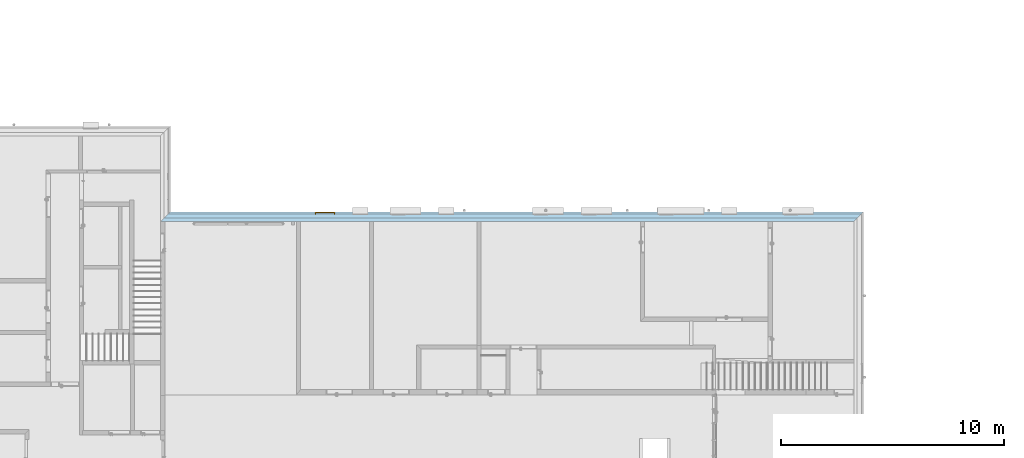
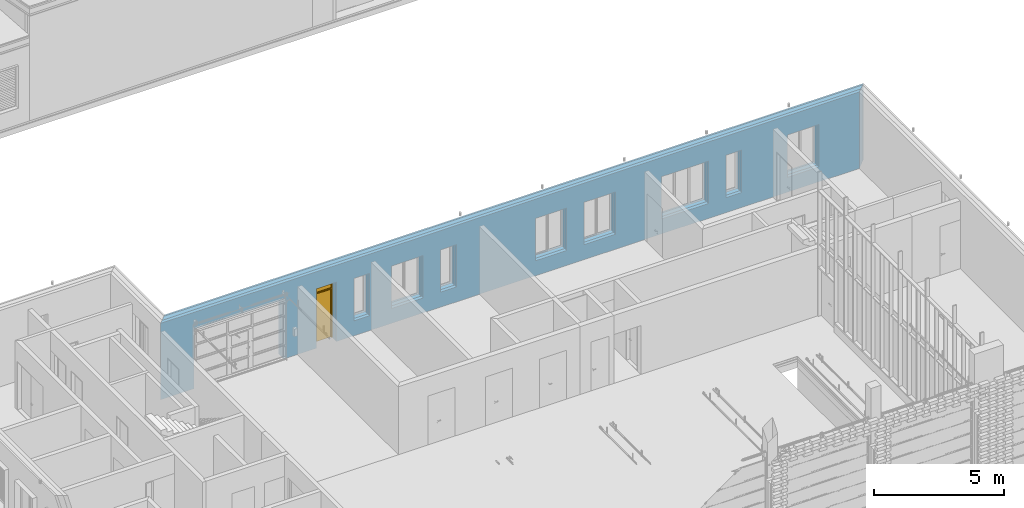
# One storey, part 21 of 62: 1 door, 10 openings, 1 element without a shape of its own, plus 3 elements that do not belong to this part.
"""IFC2X3 building model written with IfcOpenShell, lengths in millimetres."""

from ifc_helpers import new_model, entity, si_unit, converted_unit, derived_unit, money_unit, direction, frame, origin_with_axes, origin_2d_with_axis, place, context, subcontext, project, spatial, polyline, rectangle, outline, extrude, open_shell, faceted_brep, surface_model, source, transform, mapped, material, type_object, element, fill, aggregate, save


model = new_model("IFC2X3")

# Units and contexts
model_context = context("Model", 3, precision=0.01, world=origin_with_axes(), true_north=direction((0.0, 1.0)))
body_context = subcontext(model_context, "Body", "Model", "MODEL_VIEW")
ifc_project = project(units=[si_unit("LENGTHUNIT", "METRE", prefix="MILLI"), si_unit("AREAUNIT", "SQUARE_METRE"), si_unit("VOLUMEUNIT", "CUBIC_METRE"), converted_unit("PLANEANGLEUNIT", "DEGREE", entity("IfcPlaneAngleMeasure", 0.0174532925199), si_unit("PLANEANGLEUNIT", "RADIAN"), dimensions=[0, 0, 0, 0, 0, 0, 0]), si_unit("SOLIDANGLEUNIT", "STERADIAN"), money_unit("EUR"), converted_unit("TIMEUNIT", "Year", entity("IfcTimeMeasure", 31556926.0), si_unit("TIMEUNIT", "SECOND"), dimensions=[0, 0, 1, 0, 0, 0, 0]), si_unit("MASSUNIT", "GRAM", prefix="KILO"), si_unit("THERMODYNAMICTEMPERATUREUNIT", "DEGREE_CELSIUS"), si_unit("LUMINOUSINTENSITYUNIT", "LUMEN"), si_unit("ENERGYUNIT", "JOULE", prefix="MEGA"), derived_unit("THERMALCONDUCTANCEUNIT", [(si_unit("POWERUNIT", "WATT"), 1), (si_unit("LENGTHUNIT", "METRE"), -1), (si_unit("THERMODYNAMICTEMPERATUREUNIT", "KELVIN"), -1)]), derived_unit("SPECIFICHEATCAPACITYUNIT", [(si_unit("ENERGYUNIT", "JOULE"), 1), (si_unit("MASSUNIT", "GRAM", prefix="KILO"), -1), (si_unit("THERMODYNAMICTEMPERATUREUNIT", "KELVIN"), -1)]), derived_unit("MASSDENSITYUNIT", [(si_unit("MASSUNIT", "GRAM", prefix="KILO"), 1), (si_unit("VOLUMEUNIT", "CUBIC_METRE"), -1)])], contexts=[model_context])

# Site, building, storey
site_placement = place(None, origin_with_axes())
site = spatial("IfcSite", under=ifc_project, at=site_placement, Name="KIRDE 14, ELVA", CompositionType="ELEMENT")
building_placement = place(site_placement, origin_with_axes())
building = spatial("IfcBuilding", under=site, at=building_placement, Name="PPA ja Päästeameti ühishoone", CompositionType="ELEMENT")
storey_placement = place(building_placement, origin_with_axes())
storey = spatial("IfcBuildingStorey", under=building, at=storey_placement, Name="Esimene korrus", CompositionType="ELEMENT", Elevation=0.0)

# Door
door_style = type_object("IfcDoorStyle", Name="Door with Transom 24", ConstructionType="NOTDEFINED", OperationType="SINGLE_SWING_LEFT", ParameterTakesPrecedence=False, Sizeable=False)
shared_shape = source(origin_with_axes(), body_context, "Body", "SurfaceModel", [
    faceted_brep([(410.0, -40.0, 2312.0), (410.0, -40.0, 0.0), (410.0, -115.0, 0.0), (410.0, -115.0, 2300.0), (410.0, -115.0, 2340.0), (410.0, 0.0, 2340.0), (410.0, 0.0, 2312.0), (422.0, -40.0, 2312.0), (422.0, -40.0, 0.0), (422.0, 0.0, 0.0), (450.0, 0.0, 0.0), (450.0, -115.0, 0.0), (450.0, -115.0, 2760.0), (410.0, -115.0, 2760.0), (410.0, 0.0, 2760.0), (422.0, 0.0, 2312.0), (450.0, 0.0, 2760.0)], [[[0, 1, 2, 3, 4, 5, 6]], [[0, 7, 8, 1]], [[8, 9, 10, 11, 2, 1]], [[4, 3, 2, 11, 12, 13]], [[14, 5, 4, 13]], [[15, 6, 5, 14, 16, 10, 9]], [[6, 15, 7, 0]], [[9, 8, 7, 15]], [[10, 16, 12, 11]], [[16, 14, 13, 12]]]),
    faceted_brep([(-422.0, 0.0, 2312.0), (-422.0, 0.0, 0.0), (-450.0, 0.0, 0.0), (-450.0, 0.0, 2760.0), (-410.0, 0.0, 2760.0), (-410.0, 0.0, 2340.0), (-410.0, 0.0, 2312.0), (-422.0, -40.0, 2312.0), (-422.0, -40.0, 0.0), (-410.0, -40.0, 0.0), (-410.0, -115.0, 0.0), (-450.0, -115.0, 0.0), (-450.0, -115.0, 2760.0), (-410.0, -115.0, 2760.0), (-410.0, -115.0, 2340.0), (-410.0, -40.0, 2312.0), (-410.0, -115.0, 2300.0)], [[[0, 1, 2, 3, 4, 5, 6]], [[0, 7, 8, 1]], [[8, 9, 10, 11, 2, 1]], [[3, 2, 11, 12]], [[4, 3, 12, 13]], [[5, 4, 13, 14]], [[15, 6, 5, 14, 16, 10, 9]], [[6, 15, 7, 0]], [[8, 7, 15, 9]], [[14, 13, 12, 11, 10, 16]]]),
    faceted_brep([(450.0, 0.0, 2800.0), (450.0, -115.0, 2800.0), (450.0, -115.0, 2760.0), (450.0, 0.0, 2760.0), (-450.0, 0.0, 2800.0), (-450.0, -115.0, 2800.0), (-450.0, -115.0, 2760.0), (-410.0, -115.0, 2760.0), (410.0, -115.0, 2760.0), (410.0, 0.0, 2760.0), (-410.0, 0.0, 2760.0), (-450.0, 0.0, 2760.0)], [[[0, 1, 2, 3]], [[4, 5, 1, 0]], [[1, 5, 6, 7, 8, 2]], [[3, 2, 8, 9]], [[0, 3, 9, 10, 11, 4]], [[11, 6, 5, 4]], [[10, 7, 6, 11]], [[9, 8, 7, 10]]]),
    faceted_brep([(-410.0, -40.0, 2312.0), (-410.0, -40.0, 2300.0), (-410.0, -115.0, 2300.0), (-410.0, -115.0, 2340.0), (-410.0, 0.0, 2340.0), (-410.0, 0.0, 2312.0), (410.0, -40.0, 2312.0), (410.0, -40.0, 2300.0), (410.0, -115.0, 2300.0), (410.0, -115.0, 2340.0), (410.0, 0.0, 2340.0), (410.0, 0.0, 2312.0)], [[[0, 1, 2, 3, 4, 5]], [[0, 6, 7, 1]], [[7, 8, 2, 1]], [[8, 9, 3, 2]], [[10, 4, 3, 9]], [[5, 4, 10, 11]], [[5, 11, 6, 0]], [[6, 11, 10, 9, 8, 7]]]),
    faceted_brep([(-422.0, 0.0, 0.0), (422.0, 0.0, 0.0), (422.0, -40.0, 0.0), (-422.0, -40.0, 0.0), (-422.0, 0.0, 2312.0), (422.0, 0.0, 2312.0), (422.0, -40.0, 2312.0), (-422.0, -40.0, 2312.0)], [[[0, 1, 2, 3]], [[0, 4, 5, 1]], [[1, 5, 6, 2]], [[3, 2, 6, 7]], [[4, 0, 3, 7]], [[5, 4, 7, 6]]]),
    surface_model("IfcShellBasedSurfaceModel", [(410.0, -51.5, 2340.0), (-410.0, -51.5, 2340.0), (-410.0, -51.5, 2760.0), (410.0, -51.5, 2760.0)], [open_shell([[[0, 1, 2, 3]]])]),
    surface_model("IfcShellBasedSurfaceModel", [(410.0, -63.5, 2340.0), (410.0, -63.5, 2760.0), (-410.0, -63.5, 2760.0), (-410.0, -63.5, 2340.0)], [open_shell([[[0, 1, 2, 3]]])]),
])
wall_placement = place(storey_placement, frame((8900.00012331, 20749.5916292, 0.0), z_axis=(0.0, 0.0, 1.0), x_axis=(1.0, 3.88740030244e-10, 0.0)))
opening_9_placement = place(wall_placement, frame((7392.13083172, 0.0, 0.0), z_axis=(0.0, 0.0, 1.0), x_axis=(1.0, 0.0, 0.0)))
door_placement = place(opening_9_placement, frame((-450.0, 0.0, 0.0), z_axis=(0.0, 0.0, 1.0), x_axis=(1.0, 0.0, 0.0)))
door = element("IfcDoor", 1, at=door_placement, inside=storey, type_object=door_style, Name="VU-03", ObjectType="DOOR", OverallHeight=2800.0, OverallWidth=900.0, context=body_context, shape_type="MappedRepresentation", body=[
    mapped(shared_shape, transform((450.000000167, 429.999997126, 0.0))),
])

# Wall, openings
wall_type = type_object("IfcWallType", Name="VS-01 430", PredefinedType="NOTDEFINED")
wall = element("IfcWall", 2, at=wall_placement, inside=storey, type_object=wall_type, Name="VS-01")
opening_1_placement = place(wall_placement, frame((17399.6518059, 0.0, 700.0), z_axis=(0.0, 0.0, 1.0), x_axis=(1.0, 0.0, 0.0)))
element("IfcOpeningElement", 3, at=opening_1_placement, cuts=wall, Name="A-05", context=body_context, shape_type="SweptSolid", body=[
    extrude(rectangle(XDim=1400.0, YDim=2000.0, at=origin_2d_with_axis()), frame((1.36058275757e-07, 349.999993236, 1000.0), z_axis=(-3.88740030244e-10, -1.0, 0.0), x_axis=(1.0, -3.88740152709e-10, 0.0)), (0.0, 0.0, 1.0), 780.0),
    extrude(rectangle(XDim=1400.0, YDim=2000.0, at=origin_2d_with_axis()), frame((1.36058275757e-07, 349.999993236, 1000.0), z_axis=(3.88740030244e-10, 1.0, 0.0), x_axis=(1.0, -3.88740152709e-10, 0.0)), (0.0, 0.0, 1.0), 510.0),
    extrude(rectangle(XDim=1400.0, YDim=2000.0, at=origin_2d_with_axis()), frame((1.67155178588e-07, 429.999993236, 1000.0), z_axis=(3.88740030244e-10, 1.0, 0.0), x_axis=(1.0, -3.88740152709e-10, 0.0)), (0.0, 0.0, 1.0), 510.0),
])
opening_2_placement = place(wall_placement, frame((23369.6518059, 0.0, 700.0), z_axis=(0.0, 0.0, 1.0), x_axis=(1.0, 0.0, 0.0)))
element("IfcOpeningElement", 4, at=opening_2_placement, cuts=wall, Name="A-09", context=body_context, shape_type="SweptSolid", body=[
    extrude(rectangle(XDim=2100.0, YDim=2000.0, at=origin_2d_with_axis()), frame((1.36061828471e-07, 349.999990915, 1000.0), z_axis=(-3.88740030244e-10, -1.0, 0.0), x_axis=(1.0, -3.88740152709e-10, 0.0)), (0.0, 0.0, 1.0), 780.0),
    extrude(rectangle(XDim=2100.0, YDim=2000.0, at=origin_2d_with_axis()), frame((1.36061828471e-07, 349.999990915, 1000.0), z_axis=(3.88740030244e-10, 1.0, 0.0), x_axis=(1.0, -3.88740152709e-10, 0.0)), (0.0, 0.0, 1.0), 510.0),
    extrude(rectangle(XDim=2140.0, YDim=2040.0, at=origin_2d_with_axis()), frame((1.67162284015e-07, 429.999990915, 1000.0), z_axis=(3.88740030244e-10, 1.0, 0.0), x_axis=(1.0, -3.88740152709e-10, 0.0)), (0.0, 0.0, 1.0), 510.0),
])
opening_3_placement = place(wall_placement, frame((28639.6518059, 0.0, 700.0), z_axis=(0.0, 0.0, 1.0), x_axis=(1.0, 0.0, 0.0)))
element("IfcOpeningElement", 5, at=opening_3_placement, cuts=wall, Name="A-05", context=body_context, shape_type="SweptSolid", body=[
    extrude(rectangle(XDim=1400.0, YDim=2000.0, at=origin_2d_with_axis()), frame((1.36061828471e-07, 349.999988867, 1000.0), z_axis=(-3.88740030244e-10, -1.0, 0.0), x_axis=(1.0, -3.88740152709e-10, 0.0)), (0.0, 0.0, 1.0), 780.0),
    extrude(rectangle(XDim=1400.0, YDim=2000.0, at=origin_2d_with_axis()), frame((1.36061828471e-07, 349.999988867, 1000.0), z_axis=(3.88740030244e-10, 1.0, 0.0), x_axis=(1.0, -3.88740152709e-10, 0.0)), (0.0, 0.0, 1.0), 510.0),
    extrude(rectangle(XDim=1400.0, YDim=2000.0, at=origin_2d_with_axis()), frame((1.67162284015e-07, 429.999988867, 1000.0), z_axis=(3.88740030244e-10, 1.0, 0.0), x_axis=(1.0, -3.88740152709e-10, 0.0)), (0.0, 0.0, 1.0), 510.0),
])
opening_4_placement = place(wall_placement, frame((19579.6518059, 0.0, 700.0), z_axis=(0.0, 0.0, 1.0), x_axis=(1.0, 0.0, 0.0)))
element("IfcOpeningElement", 6, at=opening_4_placement, cuts=wall, Name="A-05", context=body_context, shape_type="SweptSolid", body=[
    extrude(rectangle(XDim=1400.0, YDim=2000.0, at=origin_2d_with_axis()), frame((1.36058275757e-07, 349.999992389, 1000.0), z_axis=(-3.88740030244e-10, -1.0, 0.0), x_axis=(1.0, -3.88740152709e-10, 0.0)), (0.0, 0.0, 1.0), 780.0),
    extrude(rectangle(XDim=1400.0, YDim=2000.0, at=origin_2d_with_axis()), frame((1.36058275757e-07, 349.999992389, 1000.0), z_axis=(3.88740030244e-10, 1.0, 0.0), x_axis=(1.0, -3.88740152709e-10, 0.0)), (0.0, 0.0, 1.0), 510.0),
    extrude(rectangle(XDim=1400.0, YDim=2000.0, at=origin_2d_with_axis()), frame((1.67155178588e-07, 429.999992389, 1000.0), z_axis=(3.88740030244e-10, 1.0, 0.0), x_axis=(1.0, -3.88740152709e-10, 0.0)), (0.0, 0.0, 1.0), 510.0),
])
opening_5_placement = place(wall_placement, frame((25549.6518059, 0.0, 700.0), z_axis=(0.0, 0.0, 1.0), x_axis=(1.0, 0.0, 0.0)))
element("IfcOpeningElement", 7, at=opening_5_placement, cuts=wall, Name="A-01", context=body_context, shape_type="SweptSolid", body=[
    extrude(rectangle(XDim=700.0, YDim=2000.0, at=origin_2d_with_axis()), frame((1.36061828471e-07, 349.999990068, 1000.0), z_axis=(-3.88740030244e-10, -1.0, 0.0), x_axis=(1.0, -3.88740152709e-10, 0.0)), (0.0, 0.0, 1.0), 780.0),
    extrude(rectangle(XDim=700.0, YDim=2000.0, at=origin_2d_with_axis()), frame((1.36061828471e-07, 349.999990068, 1000.0), z_axis=(3.88740030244e-10, 1.0, 0.0), x_axis=(1.0, -3.88740152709e-10, 0.0)), (0.0, 0.0, 1.0), 510.0),
    extrude(rectangle(XDim=700.0, YDim=2000.0, at=origin_2d_with_axis()), frame((1.67162284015e-07, 429.999990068, 1000.0), z_axis=(3.88740030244e-10, 1.0, 0.0), x_axis=(1.0, -3.88740152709e-10, 0.0)), (0.0, 0.0, 1.0), 510.0),
])
opening_6_placement = place(wall_placement, frame((10999.651806, 0.0, 700.0), z_axis=(0.0, 0.0, 1.0), x_axis=(1.0, 0.0, 0.0)))
element("IfcOpeningElement", 8, at=opening_6_placement, cuts=wall, Name="A-05", context=body_context, shape_type="SweptSolid", body=[
    extrude(rectangle(XDim=1400.0, YDim=2000.0, at=origin_2d_with_axis()), frame((1.36058275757e-07, 349.999995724, 1000.0), z_axis=(-3.88740030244e-10, -1.0, 0.0), x_axis=(1.0, -3.88740152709e-10, 0.0)), (0.0, 0.0, 1.0), 780.0),
    extrude(rectangle(XDim=1400.0, YDim=2000.0, at=origin_2d_with_axis()), frame((1.36058275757e-07, 349.999995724, 1000.0), z_axis=(3.88740030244e-10, 1.0, 0.0), x_axis=(1.0, -3.88740152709e-10, 0.0)), (0.0, 0.0, 1.0), 510.0),
    extrude(rectangle(XDim=1400.0, YDim=2000.0, at=origin_2d_with_axis()), frame((1.67155178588e-07, 429.999995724, 1000.0), z_axis=(3.88740030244e-10, 1.0, 0.0), x_axis=(1.0, -3.88740152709e-10, 0.0)), (0.0, 0.0, 1.0), 510.0),
])
opening_7_placement = place(wall_placement, frame((12829.6518059, 0.0, 700.0), z_axis=(0.0, 0.0, 1.0), x_axis=(1.0, 0.0, 0.0)))
element("IfcOpeningElement", 9, at=opening_7_placement, cuts=wall, Name="A-01", context=body_context, shape_type="SweptSolid", body=[
    extrude(rectangle(XDim=700.0, YDim=2000.0, at=origin_2d_with_axis()), frame((1.36058275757e-07, 349.999995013, 1000.0), z_axis=(-3.88740030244e-10, -1.0, 0.0), x_axis=(1.0, -3.88740152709e-10, 0.0)), (0.0, 0.0, 1.0), 780.0),
    extrude(rectangle(XDim=700.0, YDim=2000.0, at=origin_2d_with_axis()), frame((1.36058275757e-07, 349.999995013, 1000.0), z_axis=(3.88740030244e-10, 1.0, 0.0), x_axis=(1.0, -3.88740152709e-10, 0.0)), (0.0, 0.0, 1.0), 510.0),
    extrude(rectangle(XDim=700.0, YDim=2000.0, at=origin_2d_with_axis()), frame((1.67155178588e-07, 429.999995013, 1000.0), z_axis=(3.88740030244e-10, 1.0, 0.0), x_axis=(1.0, -3.88740152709e-10, 0.0)), (0.0, 0.0, 1.0), 510.0),
])
opening_8_placement = place(wall_placement, frame((8972.13083165, 0.0, 700.0), z_axis=(0.0, 0.0, 1.0), x_axis=(1.0, 0.0, 0.0)))
element("IfcOpeningElement", 10, at=opening_8_placement, cuts=wall, Name="A-01", context=body_context, shape_type="SweptSolid", body=[
    extrude(rectangle(XDim=700.0, YDim=2000.0, at=origin_2d_with_axis()), frame((1.36058275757e-07, 349.999996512, 1000.0), z_axis=(-3.88740030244e-10, -1.0, 0.0), x_axis=(1.0, -3.88740152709e-10, 0.0)), (0.0, 0.0, 1.0), 780.0),
    extrude(rectangle(XDim=700.0, YDim=2000.0, at=origin_2d_with_axis()), frame((1.36058275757e-07, 349.999996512, 1000.0), z_axis=(3.88740030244e-10, 1.0, 0.0), x_axis=(1.0, -3.88740152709e-10, 0.0)), (0.0, 0.0, 1.0), 510.0),
    extrude(rectangle(XDim=700.0, YDim=2000.0, at=origin_2d_with_axis()), frame((1.67155178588e-07, 429.999996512, 1000.0), z_axis=(3.88740030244e-10, 1.0, 0.0), x_axis=(1.0, -3.88740152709e-10, 0.0)), (0.0, 0.0, 1.0), 510.0),
])
opening_9 = element("IfcOpeningElement", 11, at=opening_9_placement, cuts=wall, Name="VU-03", context=body_context, shape_type="SweptSolid", body=[
    extrude(rectangle(XDim=900.0, YDim=2800.0, at=origin_2d_with_axis()), frame((-1.67158731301e-07, -430.0, 1400.0), z_axis=(-3.88740030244e-10, -1.0, 0.0), x_axis=(-1.0, 3.88740030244e-10, 0.0)), (0.0, 0.0, -1.0), 1290.0),
])

fill(opening_9, door)

# Opening
opening_10_placement = place(wall_placement, frame((3500.00001494, 0.0, 0.0), z_axis=(0.0, 0.0, 1.0), x_axis=(1.0, 0.0, 0.0)))
element("IfcOpeningElement", 12, at=opening_10_placement, cuts=wall, Name="GU-03", context=body_context, shape_type="SweptSolid", body=[
    extrude(outline(polyline([(2000.0, 0.0), (2000.0, 2800.0), (-2000.0, 2800.0), (-2000.0, 0.0), (2000.0, 0.0)])), frame((-1.67158731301e-07, -430.0, 0.0), z_axis=(3.88740030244e-10, 1.0, 0.0), x_axis=(-1.0, 3.88740152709e-10, 0.0)), (0.0, 0.0, 1.0), 860.0),
])

# Building element part
ifc_material_1 = material(Name="Raudbetoon Paneelid (2)")
building_element_part_1_placement = place(wall_placement, origin_with_axes())
building_element_part_1 = element("IfcBuildingElementPart", 13, at=building_element_part_1_placement, material=ifc_material_1, Name="Raudbetoon Paneelid (2)", context=body_context, shape_type="SweptSolid", body=[
    extrude(outline(polyline([(0.0, 0.0), (31144.7047591, 0.0), (31294.7047592, 150.0), (150.000000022, 150.0), (0.0, 0.0)])), origin_with_axes(), (0.0, 0.0, 1.0), 3600.0),
])

ifc_material_2 = material(Name="Vahtpolüstüreen (4)")
building_element_part_2_placement = place(wall_placement, origin_with_axes())
building_element_part_2 = element("IfcBuildingElementPart", 14, at=building_element_part_2_placement, material=ifc_material_2, Name="Vahtpolüstüreen (4)", context=body_context, shape_type="SweptSolid", body=[
    extrude(outline(polyline([(150.000000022, 150.0), (31294.7047592, 150.0), (31494.7047593, 350.0), (350.000000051, 350.0), (150.000000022, 150.0)])), origin_with_axes(), (0.0, 0.0, 1.0), 3600.0),
])

building_element_part_3_placement = place(wall_placement, origin_with_axes())
building_element_part_3 = element("IfcBuildingElementPart", 15, at=building_element_part_3_placement, material=ifc_material_1, Name="Raudbetoon Paneelid (2)", context=body_context, shape_type="SweptSolid", body=[
    extrude(outline(polyline([(350.000000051, 350.0), (31494.7047593, 350.0), (31574.7047593, 430.0), (430.000000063, 430.0), (350.000000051, 350.0)])), origin_with_axes(), (0.0, 0.0, 1.0), 3600.0),
])

aggregate(wall, [building_element_part_1, building_element_part_2, building_element_part_3])

save(model, "model.ifc")
